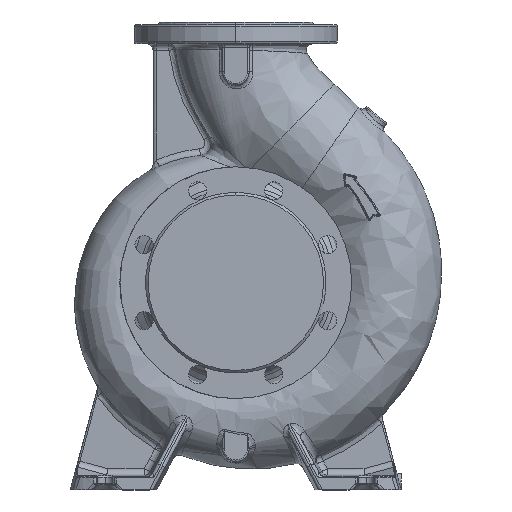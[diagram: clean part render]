
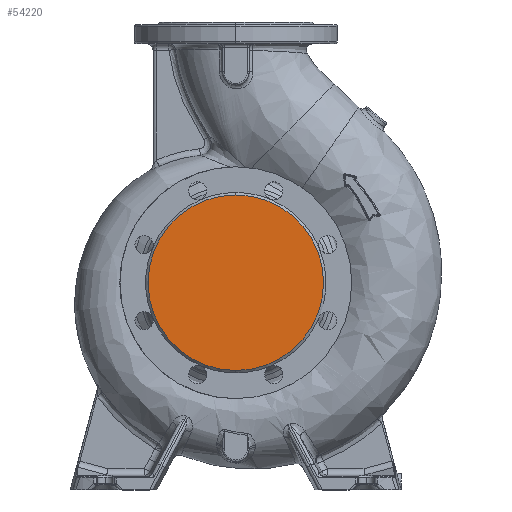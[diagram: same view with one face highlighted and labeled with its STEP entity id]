
A CAD part, top view. The second image highlights one B-rep face of the part: STEP entity #54220.
In plain terms, the highlighted planar face has unit normal (0, 0, 1).
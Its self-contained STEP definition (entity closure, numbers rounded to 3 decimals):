
#723 = AXIS2_PLACEMENT_3D ( 'NONE', #22758, #13889, #24263 ) ;
#1391 = EDGE_CURVE ( 'NONE', #44496, #64270, #51273, .T. ) ;
#4482 = DIRECTION ( 'NONE',  ( 0., 0., -1. ) ) ;
#12845 = EDGE_CURVE ( 'NONE', #64270, #44496, #52384, .T. ) ;
#13576 = ORIENTED_EDGE ( 'NONE', *, *, #1391, .F. ) ;
#13889 = DIRECTION ( 'NONE',  ( 0., 0., -1. ) ) ;
#20180 = DIRECTION ( 'NONE',  ( 0., 1., 0. ) ) ;
#20878 = CARTESIAN_POINT ( 'NONE',  ( 0., -106., 140. ) ) ;
#21027 = AXIS2_PLACEMENT_3D ( 'NONE', #34679, #4482, #20180 ) ;
#22758 = CARTESIAN_POINT ( 'NONE',  ( 0., 0., 140. ) ) ;
#24263 = DIRECTION ( 'NONE',  ( 0., 1., 0. ) ) ;
#28494 = CARTESIAN_POINT ( 'NONE',  ( 0., 106., 140. ) ) ;
#34679 = CARTESIAN_POINT ( 'NONE',  ( 0., 0., 140. ) ) ;
#37526 = ORIENTED_EDGE ( 'NONE', *, *, #12845, .F. ) ;
#44103 = DIRECTION ( 'NONE',  ( 0., 0., -1. ) ) ;
#44496 = VERTEX_POINT ( 'NONE', #28494 ) ;
#51273 = CIRCLE ( 'NONE', #21027, 106. ) ;
#52384 = CIRCLE ( 'NONE', #53541, 106. ) ;
#52975 = PLANE ( 'NONE',  #723 ) ;
#53541 = AXIS2_PLACEMENT_3D ( 'NONE', #64728, #44103, #54129 ) ;
#54129 = DIRECTION ( 'NONE',  ( 0., 1., 0. ) ) ;
#54220 = ADVANCED_FACE ( 'NONE', ( #64035 ), #52975, .F. ) ;
#59983 = EDGE_LOOP ( 'NONE', ( #13576, #37526 ) ) ;
#64035 = FACE_OUTER_BOUND ( 'NONE', #59983, .T. ) ;
#64270 = VERTEX_POINT ( 'NONE', #20878 ) ;
#64728 = CARTESIAN_POINT ( 'NONE',  ( 0., 0., 140. ) ) ;
